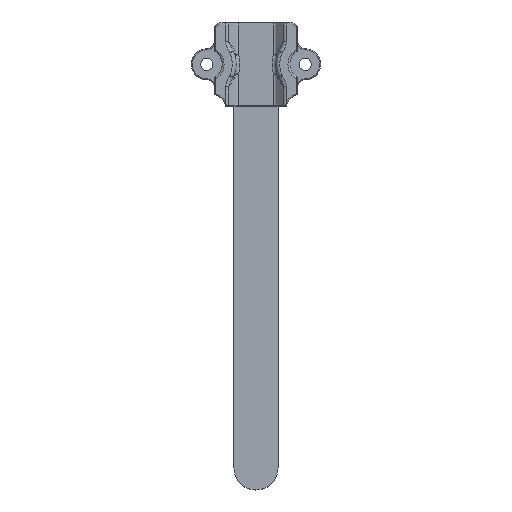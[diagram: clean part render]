
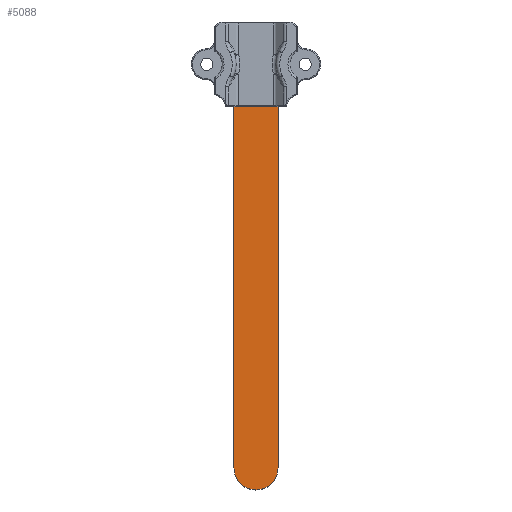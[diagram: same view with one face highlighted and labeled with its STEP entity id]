
A CAD part, top view. The second image highlights one B-rep face of the part: STEP entity #5088.
In plain terms, the highlighted planar face has unit normal (0, 0, 1).
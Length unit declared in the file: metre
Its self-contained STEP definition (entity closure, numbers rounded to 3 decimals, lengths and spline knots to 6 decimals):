
#643=LINE('',#8282,#896);
#648=LINE('',#8309,#901);
#649=LINE('',#8311,#902);
#896=VECTOR('',#6394,1.);
#901=VECTOR('',#6409,1.);
#902=VECTOR('',#6410,1.);
#1288=ORIENTED_EDGE('',*,*,#2902,.F.);
#1289=ORIENTED_EDGE('',*,*,#2892,.T.);
#1290=ORIENTED_EDGE('',*,*,#2903,.T.);
#1291=ORIENTED_EDGE('',*,*,#2904,.T.);
#2892=EDGE_CURVE('',#3680,#3693,#643,.T.);
#2902=EDGE_CURVE('',#3680,#3701,#648,.T.);
#2903=EDGE_CURVE('',#3693,#3702,#649,.T.);
#2904=EDGE_CURVE('',#3702,#3701,#3991,.T.);
#3680=VERTEX_POINT('',#8256);
#3693=VERTEX_POINT('',#8281);
#3701=VERTEX_POINT('',#8310);
#3702=VERTEX_POINT('',#8312);
#3991=CIRCLE('',#5517,0.00575);
#4320=EDGE_LOOP('',(#1288,#1289,#1290,#1291));
#4679=FACE_BOUND('',#4320,.T.);
#5025=PLANE('',#5516);
#5088=ADVANCED_FACE('',(#4679),#5025,.T.);
#5516=AXIS2_PLACEMENT_3D('',#8308,#6407,#6408);
#5517=AXIS2_PLACEMENT_3D('',#8313,#6411,#6412);
#6394=DIRECTION('',(-1.,0.,0.));
#6407=DIRECTION('',(0.,0.,1.));
#6408=DIRECTION('',(1.,0.,0.));
#6409=DIRECTION('',(0.,-1.,0.));
#6410=DIRECTION('',(0.,-1.,0.));
#6411=DIRECTION('',(0.,0.,1.));
#6412=DIRECTION('',(1.,0.,0.));
#8256=CARTESIAN_POINT('',(0.00575,0.1106,0.07085));
#8281=CARTESIAN_POINT('',(-0.00575,0.1106,0.07085));
#8282=CARTESIAN_POINT('',(0.,0.1106,0.07085));
#8308=CARTESIAN_POINT('',(0.,0.070301,0.07085));
#8309=CARTESIAN_POINT('',(0.00575,0.073176,0.07085));
#8310=CARTESIAN_POINT('',(0.00575,0.016475,0.07085));
#8311=CARTESIAN_POINT('',(-0.00575,0.073176,0.07085));
#8312=CARTESIAN_POINT('',(-0.00575,0.016475,0.07085));
#8313=CARTESIAN_POINT('',(0.,0.016475,0.07085));
